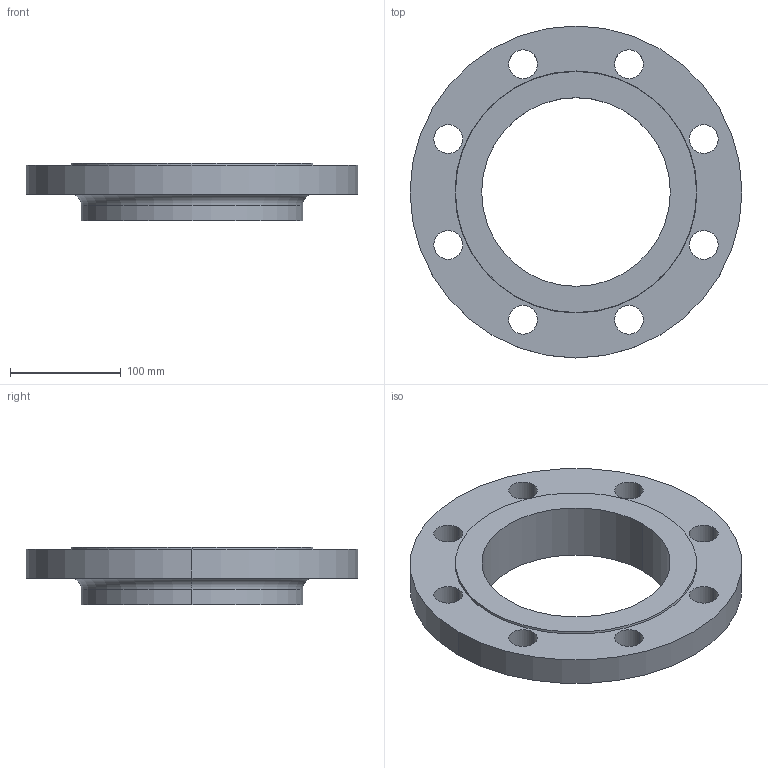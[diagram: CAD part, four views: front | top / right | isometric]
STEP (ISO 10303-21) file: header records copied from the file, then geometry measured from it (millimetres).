
FILE_DESCRIPTION (( 'STEP AP214' ), '1' );
FILE_NAME ('PN40 DN150 Type 12 - Type B Face.STEP', '2019-01-04T22:00:53', ( '' ), ( '' ), 'SwSTEP 2.0', 'SolidWorks 2019', '' );
FILE_SCHEMA (( 'AUTOMOTIVE_DESIGN' ));
Length unit declared in the file: millimetre
Products named in the file (1): PN40 DN150 Type 12 - Type B Face
Bounding box: 300 x 300 x 52 mm (x, y, z)
Volume: 1382808.5 mm3; surface area: 170139.4 mm2
Topology: 1 solids, 1 shells, 30 faces, 76 edges, 50 vertices
Faces by surface type: cylinder 22, plane 4, torus 2, cone 2
Entity records: 1006 total; most frequent: DIRECTION 190, CARTESIAN_POINT 157, ORIENTED_EDGE 152, AXIS2_PLACEMENT_3D 83, EDGE_CURVE 76, CIRCLE 52, VERTEX_POINT 50, EDGE_LOOP 50
